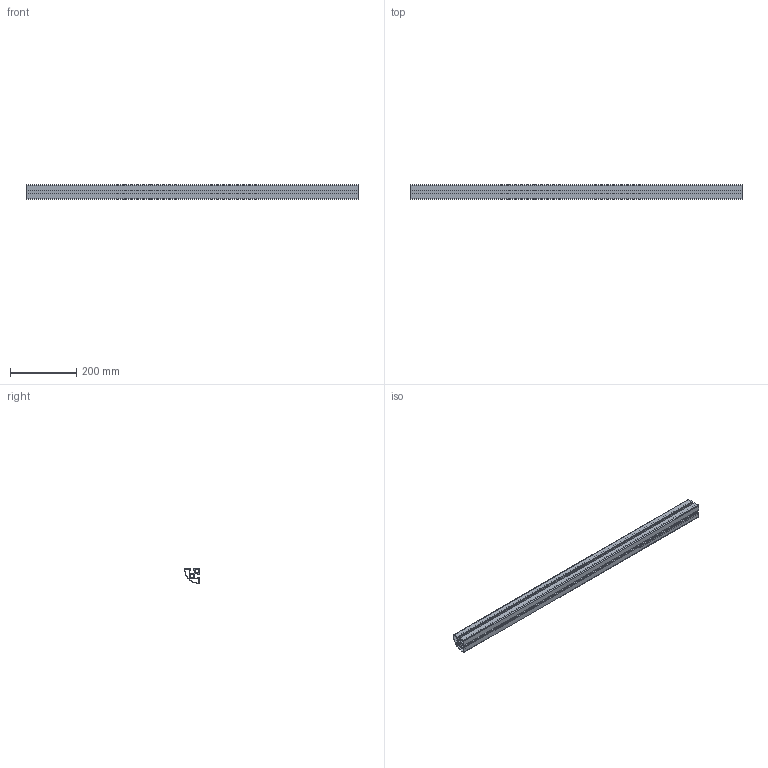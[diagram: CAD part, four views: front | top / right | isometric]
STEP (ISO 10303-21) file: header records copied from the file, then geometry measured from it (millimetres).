
FILE_DESCRIPTION (( 'STEP AP214' ), '1' );
FILE_NAME ('1.0212 45 R 90 musta 1000mm.STEP', '2026-03-18T07:07:08', ( '' ), ( '' ), 'SwSTEP 2.0', 'SolidWorks 2025', '' );
FILE_SCHEMA (( 'AUTOMOTIVE_DESIGN' ));
Length unit declared in the file: millimetre
Products named in the file (1): 1.0212 45 R 90 musta 1000mm
Bounding box: 1000 x 45 x 45 mm (x, y, z)
Volume: 577114.6 mm3; surface area: 455404.7 mm2
Topology: 1 solids, 1 shells, 105 faces, 309 edges, 206 vertices
Faces by surface type: cylinder 61, plane 44
Entity records: 3584 total; most frequent: DIRECTION 643, CARTESIAN_POINT 621, ORIENTED_EDGE 618, EDGE_CURVE 309, AXIS2_PLACEMENT_3D 228, VERTEX_POINT 206, VECTOR 187, LINE 187
